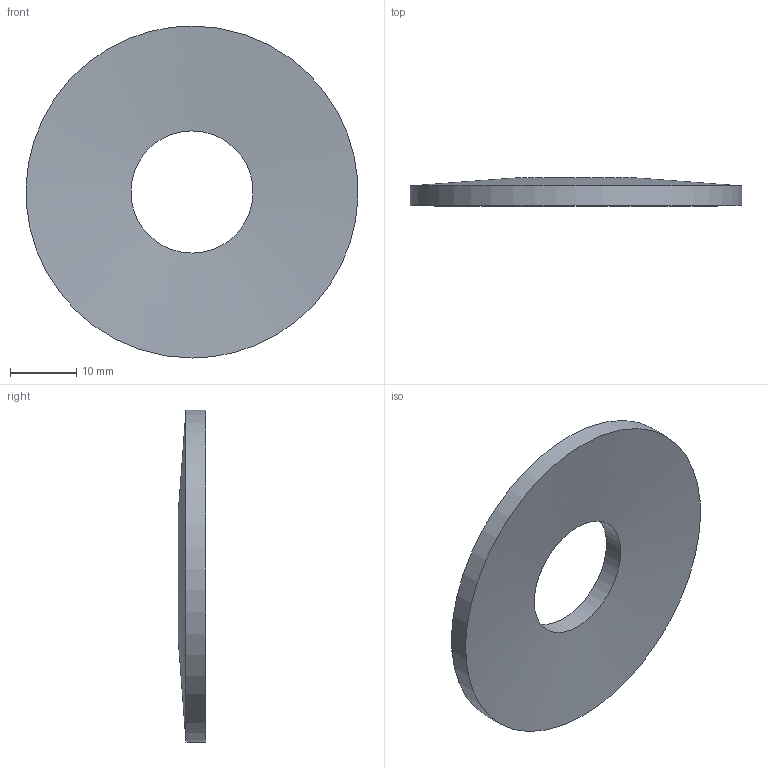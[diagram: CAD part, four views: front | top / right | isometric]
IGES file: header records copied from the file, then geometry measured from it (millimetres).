
Global section: file name: ST.0500.0184.0300; native system: Autodesk Inventor 2026; preprocessor: unknown; author: J. Iwanek; date: 20260918.103115; units: millimetre
Bounding box: 49.96 x 4.2 x 50 mm (x, y, z)
Volume: 5109.1 mm3; surface area: 4052.8 mm2
Topology: 1 solids, 1 shells, 4 faces, 12 edges, 8 vertices
Faces by surface type: bspline 4
